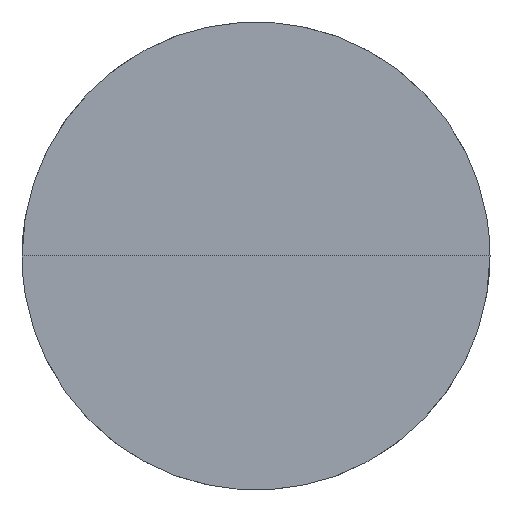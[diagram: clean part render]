
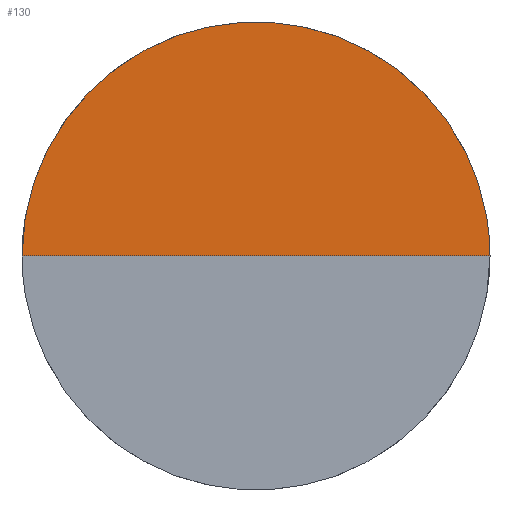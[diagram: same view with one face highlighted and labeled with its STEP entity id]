
A CAD part, top view. The second image highlights one B-rep face of the part: STEP entity #130.
In plain terms, the highlighted free-form (B-spline) face has degree [2, 1] with [5, 2] control points.
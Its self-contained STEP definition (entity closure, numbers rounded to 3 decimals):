
#21=B_SPLINE_CURVE_WITH_KNOTS('',1,(#2882,#2883),.UNSPECIFIED.,.F.,.F.,
(2,2),(-710.,-10.),.UNSPECIFIED.);
#130=ADVANCED_FACE('',(#195),#911,.T.);
#195=FACE_OUTER_BOUND('',#293,.T.);
#293=EDGE_LOOP('',(#585,#586,#587));
#585=ORIENTED_EDGE('',*,*,#743,.T.);
#586=ORIENTED_EDGE('',*,*,#744,.T.);
#587=ORIENTED_EDGE('',*,*,#745,.T.);
#743=EDGE_CURVE('',#845,#846,#1087,.T.);
#744=EDGE_CURVE('',#846,#847,#1088,.T.);
#745=EDGE_CURVE('',#847,#845,#21,.T.);
#845=VERTEX_POINT('',#2870);
#846=VERTEX_POINT('',#2871);
#847=VERTEX_POINT('',#2872);
#911=(
BOUNDED_SURFACE()
B_SPLINE_SURFACE(2,1,((#2814,#2815),(#2816,#2817),(#2818,#2819),(#2820,
#2821),(#2822,#2823)),.UNSPECIFIED.,.F.,.F.,.F.)
B_SPLINE_SURFACE_WITH_KNOTS((3,2,3),(2,2),(0.,1099.557,2199.115),
(10.,710.),.UNSPECIFIED.)
GEOMETRIC_REPRESENTATION_ITEM()
RATIONAL_B_SPLINE_SURFACE(((1.,1.),(0.707,0.707),
(1.,1.),(0.707,0.707),(1.,1.)))
REPRESENTATION_ITEM('')
SURFACE()
);
#1087=(
BOUNDED_CURVE()
B_SPLINE_CURVE(2,(#2875,#2876,#2877,#2878,#2879),.UNSPECIFIED.,.F.,.F.)
B_SPLINE_CURVE_WITH_KNOTS((3,2,3),(0.,1099.557,2199.115),
 .UNSPECIFIED.)
CURVE()
GEOMETRIC_REPRESENTATION_ITEM()
RATIONAL_B_SPLINE_CURVE((1.,0.707,1.,0.707,1.))
REPRESENTATION_ITEM('')
);
#1088=(
BOUNDED_CURVE()
B_SPLINE_CURVE(1,(#2880,#2881),.UNSPECIFIED.,.F.,.F.)
B_SPLINE_CURVE_WITH_KNOTS((2,2),(10.,710.),.UNSPECIFIED.)
CURVE()
GEOMETRIC_REPRESENTATION_ITEM()
RATIONAL_B_SPLINE_CURVE((1.,1.))
REPRESENTATION_ITEM('')
);
#2814=CARTESIAN_POINT('',(6427.526,817.15,25.));
#2815=CARTESIAN_POINT('',(7127.526,817.15,25.));
#2816=CARTESIAN_POINT('',(6427.526,1517.15,25.));
#2817=CARTESIAN_POINT('',(7127.526,817.15,25.));
#2818=CARTESIAN_POINT('',(7127.526,1517.15,25.));
#2819=CARTESIAN_POINT('',(7127.526,817.15,25.));
#2820=CARTESIAN_POINT('',(7827.526,1517.15,25.));
#2821=CARTESIAN_POINT('',(7127.526,817.15,25.));
#2822=CARTESIAN_POINT('',(7827.526,817.15,25.));
#2823=CARTESIAN_POINT('',(7127.526,817.15,25.));
#2870=CARTESIAN_POINT('',(6427.526,817.15,25.));
#2871=CARTESIAN_POINT('',(7827.526,817.15,25.));
#2872=CARTESIAN_POINT('',(7127.526,817.15,25.));
#2875=CARTESIAN_POINT('',(6427.526,817.15,25.));
#2876=CARTESIAN_POINT('',(6427.526,1517.15,25.));
#2877=CARTESIAN_POINT('',(7127.526,1517.15,25.));
#2878=CARTESIAN_POINT('',(7827.526,1517.15,25.));
#2879=CARTESIAN_POINT('',(7827.526,817.15,25.));
#2880=CARTESIAN_POINT('',(7827.526,817.15,25.));
#2881=CARTESIAN_POINT('',(7127.526,817.15,25.));
#2882=CARTESIAN_POINT('',(7127.526,817.15,25.));
#2883=CARTESIAN_POINT('',(6427.526,817.15,25.));
